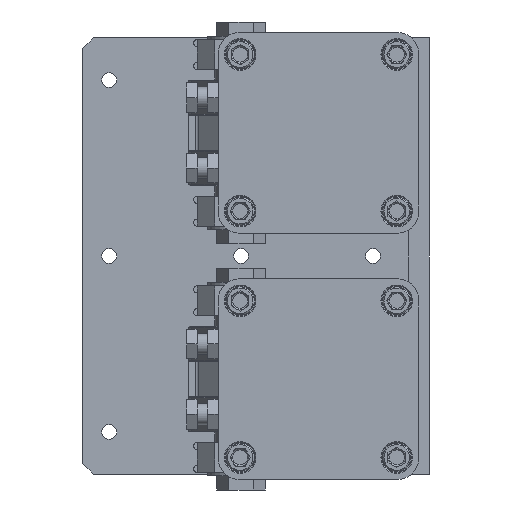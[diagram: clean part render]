
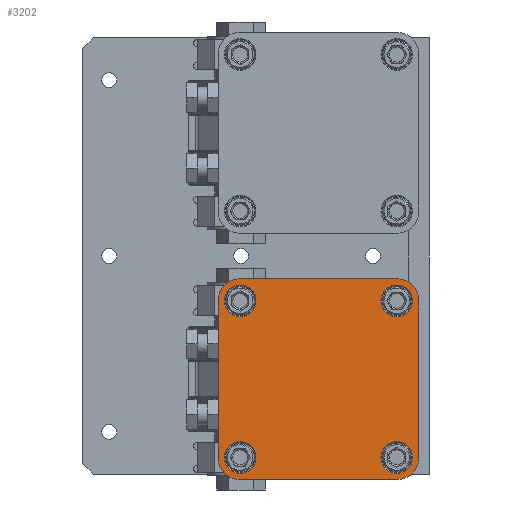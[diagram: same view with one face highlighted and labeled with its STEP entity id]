
A CAD part, front view. The second image highlights one B-rep face of the part: STEP entity #3202.
In plain terms, the highlighted planar face has unit normal (0, -1, 0).
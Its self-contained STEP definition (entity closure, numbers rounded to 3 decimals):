
#3202=ADVANCED_FACE('',(#10931,#10932,#10933,#10934,#10935),#4932,.F.);
#4932=PLANE('',#32403);
#6599=LINE('',#47983,#8979);
#6600=LINE('',#47988,#8980);
#6601=LINE('',#47992,#8981);
#6602=LINE('',#47996,#8982);
#8979=VECTOR('',#38201,1.);
#8980=VECTOR('',#38204,1.);
#8981=VECTOR('',#38207,1.);
#8982=VECTOR('',#38210,1.);
#10931=FACE_BOUND('',#13238,.T.);
#10932=FACE_BOUND('',#13239,.T.);
#10933=FACE_BOUND('',#13240,.T.);
#10934=FACE_BOUND('',#13241,.T.);
#10935=FACE_BOUND('',#13242,.T.);
#13238=EDGE_LOOP('',(#18154,#18155,#18156,#18157,#18158,#18159,#18160,#18161));
#13239=EDGE_LOOP('',(#18162));
#13240=EDGE_LOOP('',(#18163));
#13241=EDGE_LOOP('',(#18164));
#13242=EDGE_LOOP('',(#18165));
#18154=ORIENTED_EDGE('',*,*,#27328,.F.);
#18155=ORIENTED_EDGE('',*,*,#27329,.T.);
#18156=ORIENTED_EDGE('',*,*,#27330,.F.);
#18157=ORIENTED_EDGE('',*,*,#27331,.T.);
#18158=ORIENTED_EDGE('',*,*,#27332,.F.);
#18159=ORIENTED_EDGE('',*,*,#27333,.T.);
#18160=ORIENTED_EDGE('',*,*,#27334,.F.);
#18161=ORIENTED_EDGE('',*,*,#27335,.T.);
#18162=ORIENTED_EDGE('',*,*,#27336,.T.);
#18163=ORIENTED_EDGE('',*,*,#27327,.T.);
#18164=ORIENTED_EDGE('',*,*,#27337,.T.);
#18165=ORIENTED_EDGE('',*,*,#27338,.T.);
#24036=VERTEX_POINT('',#47981);
#24037=VERTEX_POINT('',#47984);
#24038=VERTEX_POINT('',#47985);
#24039=VERTEX_POINT('',#47987);
#24040=VERTEX_POINT('',#47989);
#24041=VERTEX_POINT('',#47991);
#24042=VERTEX_POINT('',#47993);
#24043=VERTEX_POINT('',#47995);
#24044=VERTEX_POINT('',#47997);
#24045=VERTEX_POINT('',#48000);
#24046=VERTEX_POINT('',#48002);
#24047=VERTEX_POINT('',#48004);
#27327=EDGE_CURVE('',#24036,#24036,#30109,.T.);
#27328=EDGE_CURVE('',#24037,#24038,#6599,.T.);
#27329=EDGE_CURVE('',#24037,#24039,#30110,.T.);
#27330=EDGE_CURVE('',#24040,#24039,#6600,.T.);
#27331=EDGE_CURVE('',#24040,#24041,#30111,.T.);
#27332=EDGE_CURVE('',#24042,#24041,#6601,.T.);
#27333=EDGE_CURVE('',#24042,#24043,#30112,.T.);
#27334=EDGE_CURVE('',#24044,#24043,#6602,.T.);
#27335=EDGE_CURVE('',#24044,#24038,#30113,.T.);
#27336=EDGE_CURVE('',#24045,#24045,#30114,.T.);
#27337=EDGE_CURVE('',#24046,#24046,#30115,.T.);
#27338=EDGE_CURVE('',#24047,#24047,#30116,.T.);
#30109=CIRCLE('',#32394,9.);
#30110=CIRCLE('',#32396,12.);
#30111=CIRCLE('',#32397,12.);
#30112=CIRCLE('',#32398,12.);
#30113=CIRCLE('',#32399,12.);
#30114=CIRCLE('',#32400,9.);
#30115=CIRCLE('',#32401,9.);
#30116=CIRCLE('',#32402,9.);
#32394=AXIS2_PLACEMENT_3D('',#47980,#38197,#38198);
#32396=AXIS2_PLACEMENT_3D('',#47986,#38202,#38203);
#32397=AXIS2_PLACEMENT_3D('',#47990,#38205,#38206);
#32398=AXIS2_PLACEMENT_3D('',#47994,#38208,#38209);
#32399=AXIS2_PLACEMENT_3D('',#47998,#38211,#38212);
#32400=AXIS2_PLACEMENT_3D('',#47999,#38213,#38214);
#32401=AXIS2_PLACEMENT_3D('',#48001,#38215,#38216);
#32402=AXIS2_PLACEMENT_3D('',#48003,#38217,#38218);
#32403=AXIS2_PLACEMENT_3D('',#48005,#38219,#38220);
#38197=DIRECTION('',(0.,1.,0.));
#38198=DIRECTION('',(1.,0.,0.));
#38201=DIRECTION('',(-1.,0.,0.));
#38202=DIRECTION('',(0.,-1.,0.));
#38203=DIRECTION('',(0.,0.,-1.));
#38204=DIRECTION('',(0.,0.,-1.));
#38205=DIRECTION('',(0.,-1.,0.));
#38206=DIRECTION('',(1.,0.,0.));
#38207=DIRECTION('',(1.,0.,0.));
#38208=DIRECTION('',(0.,-1.,0.));
#38209=DIRECTION('',(0.,0.,1.));
#38210=DIRECTION('',(0.,0.,1.));
#38211=DIRECTION('',(0.,-1.,0.));
#38212=DIRECTION('',(-1.,0.,0.));
#38213=DIRECTION('',(0.,1.,0.));
#38214=DIRECTION('',(-1.,0.,0.));
#38215=DIRECTION('',(0.,1.,0.));
#38216=DIRECTION('',(-1.,0.,0.));
#38217=DIRECTION('',(0.,1.,0.));
#38218=DIRECTION('',(-1.,0.,0.));
#38219=DIRECTION('',(0.,1.,0.));
#38220=DIRECTION('',(1.,0.,0.));
#47980=CARTESIAN_POINT('',(-0.5,-284.5,-46.5));
#47981=CARTESIAN_POINT('',(8.5,-284.5,-46.5));
#47983=CARTESIAN_POINT('',(89.,-284.5,-59.));
#47984=CARTESIAN_POINT('',(89.,-284.5,-59.));
#47985=CARTESIAN_POINT('',(-1.,-284.5,-59.));
#47986=CARTESIAN_POINT('',(89.,-284.5,-47.));
#47987=CARTESIAN_POINT('',(101.,-284.5,-47.));
#47988=CARTESIAN_POINT('',(101.,-284.5,43.));
#47989=CARTESIAN_POINT('',(101.,-284.5,43.));
#47990=CARTESIAN_POINT('',(89.,-284.5,43.));
#47991=CARTESIAN_POINT('',(89.,-284.5,55.));
#47992=CARTESIAN_POINT('',(-1.,-284.5,55.));
#47993=CARTESIAN_POINT('',(-1.,-284.5,55.));
#47994=CARTESIAN_POINT('',(-1.,-284.5,43.));
#47995=CARTESIAN_POINT('',(-13.,-284.5,43.));
#47996=CARTESIAN_POINT('',(-13.,-284.5,-47.));
#47997=CARTESIAN_POINT('',(-13.,-284.5,-47.));
#47998=CARTESIAN_POINT('',(-1.,-284.5,-47.));
#47999=CARTESIAN_POINT('',(88.5,-284.5,-46.5));
#48000=CARTESIAN_POINT('',(79.5,-284.5,-46.5));
#48001=CARTESIAN_POINT('',(-0.5,-284.5,42.5));
#48002=CARTESIAN_POINT('',(-9.5,-284.5,42.5));
#48003=CARTESIAN_POINT('',(88.5,-284.5,42.5));
#48004=CARTESIAN_POINT('',(79.5,-284.5,42.5));
#48005=CARTESIAN_POINT('',(44.,-284.5,-2.));
